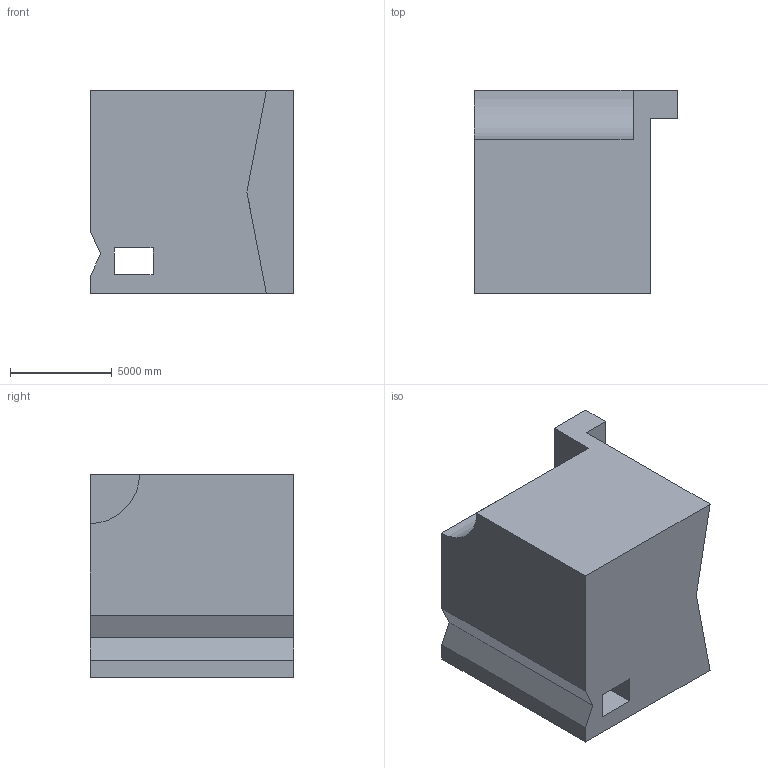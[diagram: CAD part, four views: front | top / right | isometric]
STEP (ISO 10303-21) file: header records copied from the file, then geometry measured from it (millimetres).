
FILE_DESCRIPTION (( 'STEP AP203' ), '1' );
FILE_NAME ('452.STEP', '2022-07-29T11:20:21', ( 'user' ), ( '' ), 'SwSTEP 2.0', 'SolidWorks 2021', '' );
FILE_SCHEMA (( 'CONFIG_CONTROL_DESIGN' ));
Length unit declared in the file: centimetre
Products named in the file (1): 452
Bounding box: 10000 x 10000 x 10000 mm (x, y, z)
Volume: 760184493206 mm3; surface area: 663958269.5 mm2
Topology: 1 solids, 1 shells, 25 faces, 69 edges, 46 vertices
Faces by surface type: plane 24, cylinder 1
Entity records: 866 total; most frequent: CARTESIAN_POINT 141, ORIENTED_EDGE 138, DIRECTION 123, EDGE_CURVE 69, VECTOR 67, LINE 67, VERTEX_POINT 46, AXIS2_PLACEMENT_3D 28
